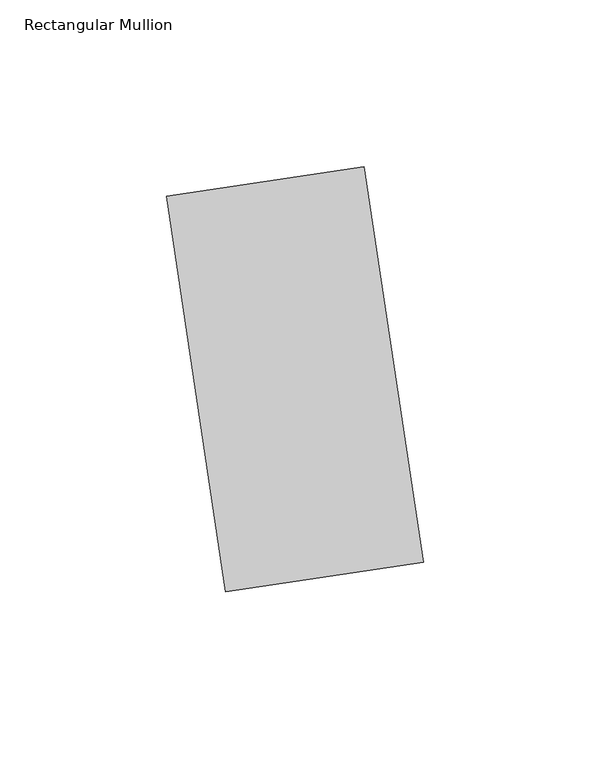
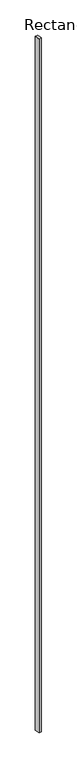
"""IFC4 building model written with IfcOpenShell, lengths in millimetres: member geometry, Rectangular Mullion : TERÇA 6x12 cm."""

from ifc_helpers import new_model, si_unit, frame, origin, place, context, project, spatial, polyline, outline, extrude, source, transform, mapped, element, save


def rectangular_mullion_ed50eb17(model_context):
    return source(origin(), model_context, "Body", "SweptSolid", [
        extrude(outline(polyline([(29.6680906, 4.4502136), (-29.6680906, -4.4502136), (-47.4689449, 114.2221488), (11.8672362, 123.1225759), (29.6680906, 4.4502136)])), frame((0.0, 0.0, -16295.0), z_axis=(0.0, 0.0, 1.0), x_axis=(1.0, 0.0, 0.0)), (0.0, 0.0, 1.0), 16295.0),
    ])


if __name__ == "__main__":
    model = new_model("IFC4")
    model_context = context("Model", 3, world=origin())
    ifc_project = project(units=[si_unit("LENGTHUNIT", "METRE", prefix="MILLI")], contexts=[model_context])
    site = spatial("IfcSite", under=ifc_project)
    building = spatial("IfcBuilding", under=site)
    placement = place(None, origin())
    rectangular_mullion_shape = rectangular_mullion_ed50eb17(model_context)
    element("IfcMember", 1, ObjectType="Rectangular Mullion : TERÇA 6x12 cm", at=placement, inside=building, context=model_context, shape_type="MappedRepresentation", body=[
        mapped(rectangular_mullion_shape, transform((0.0, 0.0, 0.0), x_axis=(1.0, 0.0, 0.0), y_axis=(0.0, 1.0, 0.0), z_axis=(0.0, 0.0, 1.0))),
    ])
    save(model, "model.ifc")
